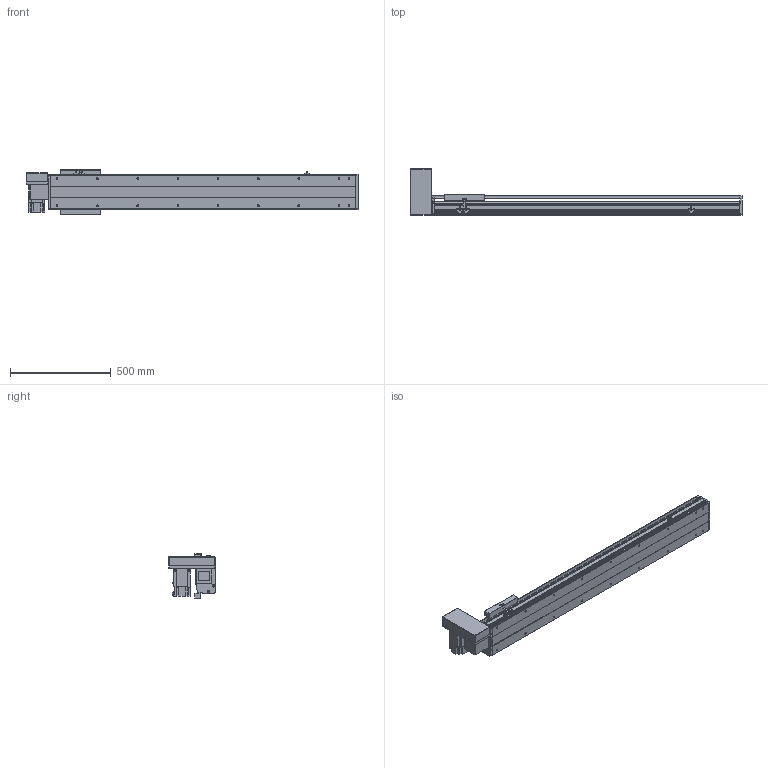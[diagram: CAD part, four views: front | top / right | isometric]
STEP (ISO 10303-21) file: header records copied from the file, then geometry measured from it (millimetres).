
FILE_DESCRIPTION(/* description */ ('STEP AP214'),/* implementation_level */ '2;1');
FILE_NAME(/* name */ 'PBS200-P40-S1150-RU-T75-C1-N(0)',/* time_stamp */ '2022-06-11T09:35:37+02:00',/* author */ ('License CC BY-ND 4.0'),/* organization */ ('CADENAS'),/* preprocessor_version */ 'ST-DEVELOPER v18.102',/* originating_system */ 'PARTsolutions',/* authorisation */ ' ');
FILE_SCHEMA (('AUTOMOTIVE_DESIGN {1 0 10303 214 3 1 1}'));
Length unit declared in the file: millimetre
Products named in the file (7): PBS200-P40-S1150-RU-T75-C1-N(0); PBS200_sensor; PBS200_plant; PBS200_sliser; T75-p1; PBS200T-RU_motors; PBS200-S1150()_body
Assembly tree (8 placements, depth 2):
  PBS200-P40-S1150-RU-T75-C1-N(0)
    PBS200_sensor  x3
    PBS200_plant
    PBS200_sliser
    T75-p1
    PBS200T-RU_motors
    PBS200-S1150()_body
Bounding box: 1650 x 231 x 221 mm (x, y, z)
Volume: 12173541.8 mm3; surface area: 1967465.3 mm2
Topology: 8 solids, 8 shells, 926 faces, 2384 edges, 1554 vertices
Faces by surface type: plane 576, cylinder 300, cone 50
Full cylindrical faces by diameter (mm): 2.459 x6, 3.242 x4, 4.5 x6, 4.917 x4, 5 x6, 6 x7, 6.6 x8, 6.647 x22, 8 x6, 10 x4, 12 x8, 38 x2, 40 x1, 70 x1
Entity records: 24701 total; most frequent: DIRECTION 4351, CARTESIAN_POINT 4210, ORIENTED_EDGE 3994, EDGE_CURVE 1997, AXIS2_PLACEMENT_3D 1519, VERTEX_POINT 1378, LINE 1313, VECTOR 1313
